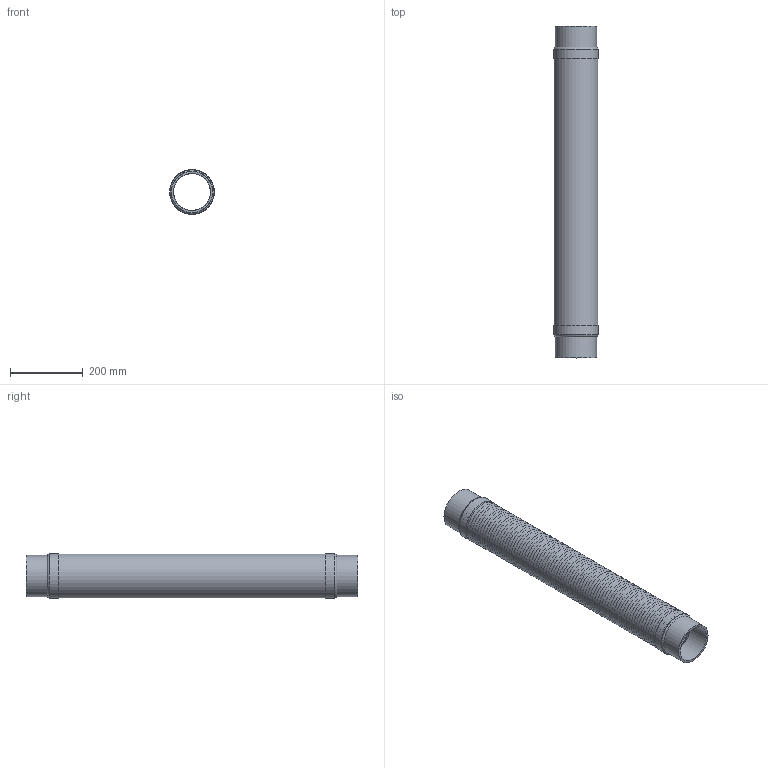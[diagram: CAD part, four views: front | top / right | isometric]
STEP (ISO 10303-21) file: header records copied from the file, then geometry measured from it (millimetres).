
FILE_DESCRIPTION((''),'2;1');
FILE_NAME('C:\2012_Work\Designs\MN\MN-4x36.stp','2013-08-09T17:48:03',('KShiels'),(''),'Autodesk Inventor 2012','Autodesk Inventor 2012','');
FILE_SCHEMA(('AUTOMOTIVE_DESIGN { 1 0 10303 214 1 1 1 1 }'));
Length unit declared in the file: inch
Products named in the file (6): MN-4x36; MN-4x36_Welds; A-30102-5-4MN-BRAID; A-30102-5_4MN-BELLOWS; A-30102-5_4MN-BRAID-COLLAR; A-30102-5_4MN-THREADED_NIPPLE
Assembly tree (7 placements, depth 2):
  MN-4x36
    MN-4x36_Welds
    A-30102-5-4MN-BRAID
    A-30102-5_4MN-BELLOWS
    A-30102-5_4MN-BRAID-COLLAR  x2
    A-30102-5_4MN-THREADED_NIPPLE  x2
Bounding box: 123.08 x 914.4 x 123.08 mm (x, y, z)
Volume: 684525.4 mm3; surface area: 2066325.9 mm2
Topology: 8 solids, 8 shells, 694 faces, 1050 edges, 702 vertices
Faces by surface type: plane 346, torus 334, cylinder 12, bspline 2
Full cylindrical faces by diameter (mm): 102.26 x2, 114.3 x4, 119.888 x1, 120.701 x3, 123.082 x2
Entity records: 14494 total; most frequent: DIRECTION 2758, CARTESIAN_POINT 2597, ORIENTED_EDGE 1384, AXIS2_PLACEMENT_3D 1379, EDGE_LOOP 1370, EDGE_CURVE 692, VERTEX_POINT 690, FACE_OUTER_BOUND 686
